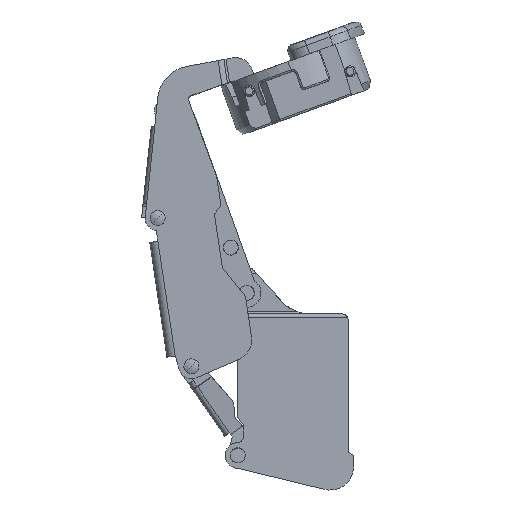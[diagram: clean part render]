
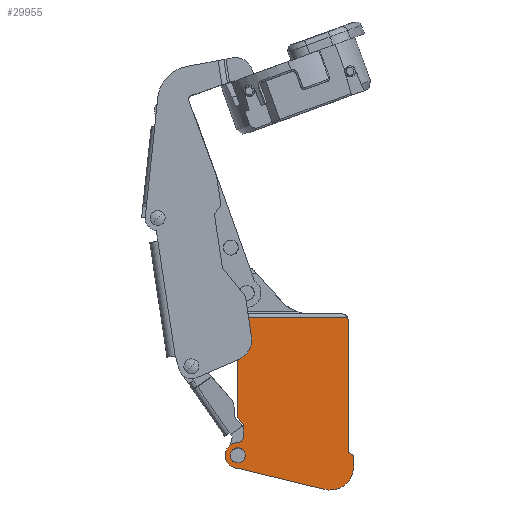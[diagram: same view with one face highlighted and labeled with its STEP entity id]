
A CAD part, left-side view. The second image highlights one B-rep face of the part: STEP entity #29955.
In plain terms, the highlighted planar face has unit normal (-1, 0, 0).
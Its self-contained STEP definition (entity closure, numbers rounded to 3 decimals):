
#3440 = CARTESIAN_POINT ( 'NONE',  ( -9., 2.5, -42. ) ) ;
#3874 = EDGE_CURVE ( 'NONE', #6586, #6585, #13894, .T. ) ;
#4008 = EDGE_CURVE ( 'NONE', #6473, #6472, #15915, .T. ) ;
#4017 = EDGE_CURVE ( 'NONE', #6472, #6473, #15925, .T. ) ;
#5407 = VERTEX_POINT ( 'NONE', #17988 ) ;
#5412 = VERTEX_POINT ( 'NONE', #17993 ) ;
#5413 = VERTEX_POINT ( 'NONE', #17994 ) ;
#5414 = VERTEX_POINT ( 'NONE', #17995 ) ;
#5415 = VERTEX_POINT ( 'NONE', #17996 ) ;
#5424 = VERTEX_POINT ( 'NONE', #18005 ) ;
#5425 = VERTEX_POINT ( 'NONE', #18006 ) ;
#5426 = VERTEX_POINT ( 'NONE', #18007 ) ;
#6295 = EDGE_CURVE ( 'NONE', #5412, #35395, #20069, .T. ) ;
#6296 = EDGE_CURVE ( 'NONE', #5412, #5426, #20074, .T. ) ;
#6297 = EDGE_CURVE ( 'NONE', #5426, #6683, #20073, .T. ) ;
#6298 = EDGE_CURVE ( 'NONE', #6674, #5425, #20076, .T. ) ;
#6299 = EDGE_CURVE ( 'NONE', #5424, #5425, #20078, .T. ) ;
#6300 = EDGE_CURVE ( 'NONE', #5413, #5424, #20080, .T. ) ;
#6311 = EDGE_CURVE ( 'NONE', #6586, #5415, #20098, .T. ) ;
#6313 = EDGE_CURVE ( 'NONE', #5407, #5415, #20084, .T. ) ;
#6315 = EDGE_CURVE ( 'NONE', #5414, #5407, #20105, .T. ) ;
#6317 = EDGE_CURVE ( 'NONE', #5413, #5414, #20109, .T. ) ;
#6394 = EDGE_CURVE ( 'NONE', #6585, #35395, #20259, .T. ) ;
#6397 = EDGE_CURVE ( 'NONE', #7581, #6674, #20263, .T. ) ;
#6399 = EDGE_CURVE ( 'NONE', #6670, #7581, #20267, .T. ) ;
#6402 = EDGE_CURVE ( 'NONE', #6683, #6670, #20273, .T. ) ;
#6472 = VERTEX_POINT ( 'NONE', #23202 ) ;
#6473 = VERTEX_POINT ( 'NONE', #23203 ) ;
#6585 = VERTEX_POINT ( 'NONE', #23315 ) ;
#6586 = VERTEX_POINT ( 'NONE', #23316 ) ;
#6670 = VERTEX_POINT ( 'NONE', #23400 ) ;
#6674 = VERTEX_POINT ( 'NONE', #23404 ) ;
#6683 = VERTEX_POINT ( 'NONE', #23413 ) ;
#7581 = VERTEX_POINT ( 'NONE', #23419 ) ;
#10875 = ORIENTED_EDGE ( 'NONE', *, *, #4017, .T. ) ;
#10876 = ORIENTED_EDGE ( 'NONE', *, *, #4008, .T. ) ;
#10877 = ORIENTED_EDGE ( 'NONE', *, *, #6300, .T. ) ;
#10878 = ORIENTED_EDGE ( 'NONE', *, *, #6299, .T. ) ;
#10879 = ORIENTED_EDGE ( 'NONE', *, *, #6298, .F. ) ;
#10880 = ORIENTED_EDGE ( 'NONE', *, *, #6397, .F. ) ;
#10881 = ORIENTED_EDGE ( 'NONE', *, *, #6399, .F. ) ;
#10882 = ORIENTED_EDGE ( 'NONE', *, *, #6402, .F. ) ;
#10883 = ORIENTED_EDGE ( 'NONE', *, *, #6297, .F. ) ;
#10884 = ORIENTED_EDGE ( 'NONE', *, *, #6296, .F. ) ;
#10885 = ORIENTED_EDGE ( 'NONE', *, *, #6295, .T. ) ;
#10886 = ORIENTED_EDGE ( 'NONE', *, *, #6394, .F. ) ;
#10887 = ORIENTED_EDGE ( 'NONE', *, *, #3874, .F. ) ;
#10888 = ORIENTED_EDGE ( 'NONE', *, *, #6311, .T. ) ;
#10889 = ORIENTED_EDGE ( 'NONE', *, *, #6313, .F. ) ;
#10890 = ORIENTED_EDGE ( 'NONE', *, *, #6315, .F. ) ;
#10891 = ORIENTED_EDGE ( 'NONE', *, *, #6317, .F. ) ;
#13894 = LINE ( 'NONE', #15614, #13897 ) ;
#13897 = VECTOR ( 'NONE', #15620, 1000. ) ;
#14519 = AXIS2_PLACEMENT_3D ( 'NONE', #17117, #17118, #17119 ) ;
#14525 = AXIS2_PLACEMENT_3D ( 'NONE', #17142, #17143, #17144 ) ;
#14842 = AXIS2_PLACEMENT_3D ( 'NONE', #22840, #22842, #22844 ) ;
#14843 = AXIS2_PLACEMENT_3D ( 'NONE', #22864, #22865, #22866 ) ;
#14847 = AXIS2_PLACEMENT_3D ( 'NONE', #22893, #22894, #22895 ) ;
#14852 = AXIS2_PLACEMENT_3D ( 'NONE', #23061, #23062, #23063 ) ;
#15614 = CARTESIAN_POINT ( 'NONE',  ( -9., -30., -57.1 ) ) ;
#15620 = DIRECTION ( 'NONE',  ( 0., 0.972, 0.236 ) ) ;
#15915 = CIRCLE ( 'NONE', #14519, 2.127 ) ;
#15925 = CIRCLE ( 'NONE', #14525, 2.127 ) ;
#17117 = CARTESIAN_POINT ( 'NONE',  ( -9., 2.5, -45.6 ) ) ;
#17118 = DIRECTION ( 'NONE',  ( 1., 0., 0. ) ) ;
#17119 = DIRECTION ( 'NONE',  ( 0., 0., -1. ) ) ;
#17142 = CARTESIAN_POINT ( 'NONE',  ( -9., 2.5, -45.6 ) ) ;
#17143 = DIRECTION ( 'NONE',  ( 1., 0., 0. ) ) ;
#17144 = DIRECTION ( 'NONE',  ( 0., 0., -1. ) ) ;
#17988 = CARTESIAN_POINT ( 'NONE',  ( -9., -30., -45.566 ) ) ;
#17993 = CARTESIAN_POINT ( 'NONE',  ( -9., 1., -40.5 ) ) ;
#17994 = CARTESIAN_POINT ( 'NONE',  ( -9., -28.5, -7.8 ) ) ;
#17995 = CARTESIAN_POINT ( 'NONE',  ( -9., -28.5, -44.7 ) ) ;
#17996 = CARTESIAN_POINT ( 'NONE',  ( -9., -30., -48.831 ) ) ;
#18005 = CARTESIAN_POINT ( 'NONE',  ( -9., -28.232, -6.8 ) ) ;
#18006 = CARTESIAN_POINT ( 'NONE',  ( -9., -0.4, -6.8 ) ) ;
#18007 = CARTESIAN_POINT ( 'NONE',  ( -9., 1., -37. ) ) ;
#20069 = CIRCLE ( 'NONE', #14842, 1.5 ) ;
#20073 = LINE ( 'NONE', #22847, #20077 ) ;
#20074 = LINE ( 'NONE', #22838, #20075 ) ;
#20075 = VECTOR ( 'NONE', #22825, 1000. ) ;
#20076 = LINE ( 'NONE', #22851, #20079 ) ;
#20077 = VECTOR ( 'NONE', #22849, 1000. ) ;
#20078 = LINE ( 'NONE', #22856, #20081 ) ;
#20079 = VECTOR ( 'NONE', #22854, 1000. ) ;
#20080 = CIRCLE ( 'NONE', #14843, 2. ) ;
#20081 = VECTOR ( 'NONE', #22858, 1000. ) ;
#20084 = LINE ( 'NONE', #22892, #20104 ) ;
#20098 = CIRCLE ( 'NONE', #14847, 6.5 ) ;
#20104 = VECTOR ( 'NONE', #22896, 1000. ) ;
#20105 = LINE ( 'NONE', #22899, #20108 ) ;
#20108 = VECTOR ( 'NONE', #22900, 1000. ) ;
#20109 = LINE ( 'NONE', #22902, #20112 ) ;
#20112 = VECTOR ( 'NONE', #22903, 1000. ) ;
#20259 = CIRCLE ( 'NONE', #14852, 3.6 ) ;
#20263 = LINE ( 'NONE', #23069, #20266 ) ;
#20266 = VECTOR ( 'NONE', #23071, 1000. ) ;
#20267 = LINE ( 'NONE', #23073, #20270 ) ;
#20270 = VECTOR ( 'NONE', #23075, 1000. ) ;
#20273 = LINE ( 'NONE', #23079, #20276 ) ;
#20276 = VECTOR ( 'NONE', #23080, 1000. ) ;
#22825 = DIRECTION ( 'NONE',  ( 0., 0., 1. ) ) ;
#22838 = CARTESIAN_POINT ( 'NONE',  ( -9., 1., -37. ) ) ;
#22840 = CARTESIAN_POINT ( 'NONE',  ( -9., 2.5, -40.5 ) ) ;
#22842 = DIRECTION ( 'NONE',  ( 1., 0., 0. ) ) ;
#22844 = DIRECTION ( 'NONE',  ( 0., 0., -1. ) ) ;
#22847 = CARTESIAN_POINT ( 'NONE',  ( -9., 2.6, -35. ) ) ;
#22849 = DIRECTION ( 'NONE',  ( 0., 0.625, 0.781 ) ) ;
#22851 = CARTESIAN_POINT ( 'NONE',  ( -9., -0.4, -6.4 ) ) ;
#22854 = DIRECTION ( 'NONE',  ( 0., 0., 1. ) ) ;
#22856 = CARTESIAN_POINT ( 'NONE',  ( -9., 2.8, -6.8 ) ) ;
#22858 = DIRECTION ( 'NONE',  ( 0., 1., 0. ) ) ;
#22864 = CARTESIAN_POINT ( 'NONE',  ( -9., -26.5, -7.8 ) ) ;
#22865 = DIRECTION ( 'NONE',  ( -1., 0., 0. ) ) ;
#22866 = DIRECTION ( 'NONE',  ( 0., 0., -1. ) ) ;
#22892 = CARTESIAN_POINT ( 'NONE',  ( -9., -30., -45.566 ) ) ;
#22893 = CARTESIAN_POINT ( 'NONE',  ( -9., -23.5, -48.831 ) ) ;
#22894 = DIRECTION ( 'NONE',  ( -1., 0., 0. ) ) ;
#22895 = DIRECTION ( 'NONE',  ( 0., 0., -1. ) ) ;
#22896 = DIRECTION ( 'NONE',  ( 0., 0., -1. ) ) ;
#22899 = CARTESIAN_POINT ( 'NONE',  ( -9., -28.5, -44.7 ) ) ;
#22900 = DIRECTION ( 'NONE',  ( 0., -0.866, -0.5 ) ) ;
#22902 = CARTESIAN_POINT ( 'NONE',  ( -9., -28.5, -5.8 ) ) ;
#22903 = DIRECTION ( 'NONE',  ( 0., 0., -1. ) ) ;
#23061 = CARTESIAN_POINT ( 'NONE',  ( -9., 2.5, -45.6 ) ) ;
#23062 = DIRECTION ( 'NONE',  ( 1., 0., 0. ) ) ;
#23063 = DIRECTION ( 'NONE',  ( 0., 0., 1. ) ) ;
#23069 = CARTESIAN_POINT ( 'NONE',  ( -9., -0.4, -8.6 ) ) ;
#23071 = DIRECTION ( 'NONE',  ( 0., -1., 0. ) ) ;
#23073 = CARTESIAN_POINT ( 'NONE',  ( -9., 1.5, -8.6 ) ) ;
#23075 = DIRECTION ( 'NONE',  ( 0., -0.707, 0.707 ) ) ;
#23079 = CARTESIAN_POINT ( 'NONE',  ( -9., 2.6, -9.7 ) ) ;
#23080 = DIRECTION ( 'NONE',  ( 0., 0., 1. ) ) ;
#23202 = CARTESIAN_POINT ( 'NONE',  ( -9., 2.5, -43.473 ) ) ;
#23203 = CARTESIAN_POINT ( 'NONE',  ( -9., 2.5, -47.727 ) ) ;
#23315 = CARTESIAN_POINT ( 'NONE',  ( -9., 2.5, -49.2 ) ) ;
#23316 = CARTESIAN_POINT ( 'NONE',  ( -9., -21.965, -55.147 ) ) ;
#23400 = CARTESIAN_POINT ( 'NONE',  ( -9., 2.6, -9.7 ) ) ;
#23404 = CARTESIAN_POINT ( 'NONE',  ( -9., -0.4, -8.6 ) ) ;
#23413 = CARTESIAN_POINT ( 'NONE',  ( -9., 2.6, -35. ) ) ;
#23419 = CARTESIAN_POINT ( 'NONE',  ( -9., 1.5, -8.6 ) ) ;
#27270 = AXIS2_PLACEMENT_3D ( 'NONE', #36134, #36139, #36140 ) ;
#29955 = ADVANCED_FACE ( 'NONE', ( #32410, #32416 ), #36132, .F. ) ;
#32410 = FACE_BOUND ( 'NONE', #32524, .T. ) ;
#32416 = FACE_OUTER_BOUND ( 'NONE', #32527, .T. ) ;
#32524 = EDGE_LOOP ( 'NONE', ( #10875, #10876 ) ) ;
#32527 = EDGE_LOOP ( 'NONE', ( #10877, #10878, #10879, #10880, #10881, #10882, #10883, #10884, #10885, #10886, #10887, #10888, #10889, #10890, #10891 ) ) ;
#35395 = VERTEX_POINT ( 'NONE', #3440 ) ;
#36132 = PLANE ( 'NONE',  #27270 ) ;
#36134 = CARTESIAN_POINT ( 'NONE',  ( -9., 2.8, -6.4 ) ) ;
#36139 = DIRECTION ( 'NONE',  ( 1., 0., 0. ) ) ;
#36140 = DIRECTION ( 'NONE',  ( 0., 0., -1. ) ) ;
